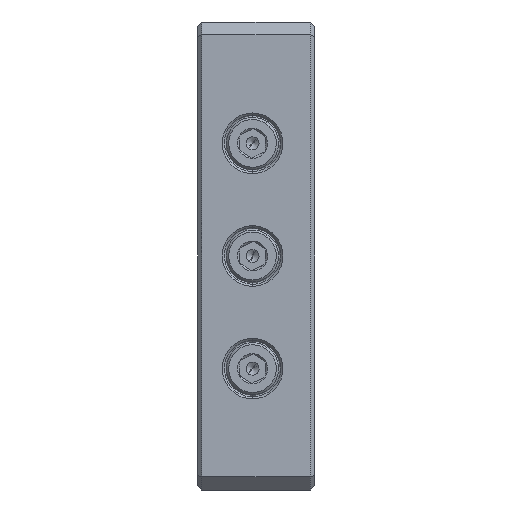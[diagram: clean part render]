
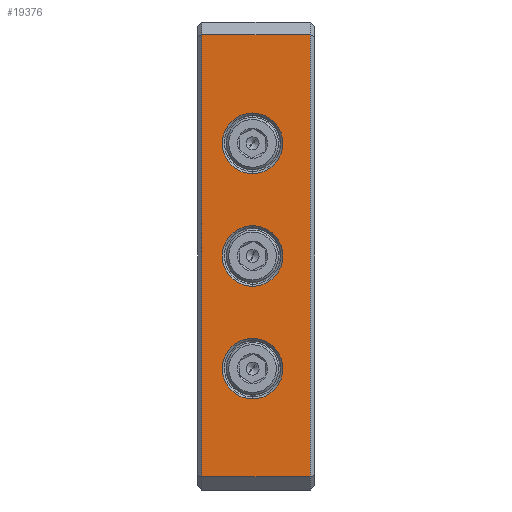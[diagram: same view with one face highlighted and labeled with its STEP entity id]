
A CAD part, left-side view. The second image highlights one B-rep face of the part: STEP entity #19376.
In plain terms, the highlighted planar face has unit normal (-1, 0, 0).
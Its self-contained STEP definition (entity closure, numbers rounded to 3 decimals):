
#11215=DIRECTION('',(0.,0.,1.));
#11216=VECTOR('',#11215,102.);
#11217=CARTESIAN_POINT('',(-111.,26.,-51.));
#11218=LINE('',#11217,#11216);
#11333=DIRECTION('',(0.,0.,-1.));
#11334=VECTOR('',#11333,102.);
#11335=CARTESIAN_POINT('',(-111.,1.,51.));
#11336=LINE('',#11335,#11334);
#11345=DIRECTION('',(0.,-1.,0.));
#11346=VECTOR('',#11345,25.);
#11347=CARTESIAN_POINT('',(-111.,26.,51.));
#11348=LINE('',#11347,#11346);
#11353=CARTESIAN_POINT('',(-111.,14.3,26.));
#11354=DIRECTION('',(1.,0.,0.));
#11355=DIRECTION('',(0.,0.,1.));
#11356=AXIS2_PLACEMENT_3D('',#11353,#11354,#11355);
#11358=CARTESIAN_POINT('',(-111.,14.3,26.));
#11359=DIRECTION('',(1.,0.,0.));
#11360=DIRECTION('',(0.,0.,-1.));
#11361=AXIS2_PLACEMENT_3D('',#11358,#11359,#11360);
#11363=CARTESIAN_POINT('',(-111.,14.3,0.));
#11364=DIRECTION('',(1.,0.,0.));
#11365=DIRECTION('',(0.,0.,1.));
#11366=AXIS2_PLACEMENT_3D('',#11363,#11364,#11365);
#11368=CARTESIAN_POINT('',(-111.,14.3,0.));
#11369=DIRECTION('',(1.,0.,0.));
#11370=DIRECTION('',(0.,0.,-1.));
#11371=AXIS2_PLACEMENT_3D('',#11368,#11369,#11370);
#11373=CARTESIAN_POINT('',(-111.,14.3,-26.));
#11374=DIRECTION('',(1.,0.,0.));
#11375=DIRECTION('',(0.,0.,1.));
#11376=AXIS2_PLACEMENT_3D('',#11373,#11374,#11375);
#11378=CARTESIAN_POINT('',(-111.,14.3,-26.));
#11379=DIRECTION('',(1.,0.,0.));
#11380=DIRECTION('',(0.,0.,-1.));
#11381=AXIS2_PLACEMENT_3D('',#11378,#11379,#11380);
#11387=DIRECTION('',(0.,1.,0.));
#11388=VECTOR('',#11387,25.);
#11389=CARTESIAN_POINT('',(-111.,1.,-51.));
#11390=LINE('',#11389,#11388);
#16832=CARTESIAN_POINT('',(-111.,14.3,19.));
#16833=CARTESIAN_POINT('',(-111.,14.3,33.));
#16834=VERTEX_POINT('',#16832);
#16835=VERTEX_POINT('',#16833);
#17039=CARTESIAN_POINT('',(-111.,14.3,7.));
#17041=VERTEX_POINT('',#17039);
#17228=CARTESIAN_POINT('',(-111.,14.3,-7.));
#17229=VERTEX_POINT('',#17228);
#17366=CARTESIAN_POINT('',(-111.,26.,-51.));
#17367=CARTESIAN_POINT('',(-111.,26.,51.));
#17368=VERTEX_POINT('',#17366);
#17369=VERTEX_POINT('',#17367);
#17445=CARTESIAN_POINT('',(-111.,1.,-51.));
#17447=VERTEX_POINT('',#17445);
#17619=CARTESIAN_POINT('',(-111.,14.3,-33.));
#17620=CARTESIAN_POINT('',(-111.,14.3,-19.));
#17621=VERTEX_POINT('',#17619);
#17622=VERTEX_POINT('',#17620);
#17730=CARTESIAN_POINT('',(-111.,1.,51.));
#17732=VERTEX_POINT('',#17730);
#19346=CARTESIAN_POINT('',(-111.,27.,54.));
#19347=DIRECTION('',(1.,0.,0.));
#19348=DIRECTION('',(0.,0.,-1.));
#19349=AXIS2_PLACEMENT_3D('',#19346,#19347,#19348);
#19350=PLANE('',#19349);
#19352=ORIENTED_EDGE('',*,*,#19351,.T.);
#19353=ORIENTED_EDGE('',*,*,#19116,.T.);
#19354=ORIENTED_EDGE('',*,*,#19337,.T.);
#19355=ORIENTED_EDGE('',*,*,#19314,.T.);
#19356=EDGE_LOOP('',(#19352,#19353,#19354,#19355));
#19357=FACE_OUTER_BOUND('',#19356,.F.);
#19359=ORIENTED_EDGE('',*,*,#19358,.F.);
#19361=ORIENTED_EDGE('',*,*,#19360,.F.);
#19362=EDGE_LOOP('',(#19359,#19361));
#19363=FACE_BOUND('',#19362,.F.);
#19365=ORIENTED_EDGE('',*,*,#19364,.F.);
#19367=ORIENTED_EDGE('',*,*,#19366,.F.);
#19368=EDGE_LOOP('',(#19365,#19367));
#19369=FACE_BOUND('',#19368,.F.);
#19371=ORIENTED_EDGE('',*,*,#19370,.F.);
#19373=ORIENTED_EDGE('',*,*,#19372,.F.);
#19374=EDGE_LOOP('',(#19371,#19373));
#19375=FACE_BOUND('',#19374,.F.);
#19376=ADVANCED_FACE('',(#19357,#19363,#19369,#19375),#19350,.F.);
#11357=CIRCLE('',#11356,7.);
#11362=CIRCLE('',#11361,7.);
#11367=CIRCLE('',#11366,7.);
#11372=CIRCLE('',#11371,7.);
#11377=CIRCLE('',#11376,7.);
#11382=CIRCLE('',#11381,7.);
#19116=EDGE_CURVE('',#17368,#17369,#11218,.T.);
#19314=EDGE_CURVE('',#17732,#17447,#11336,.T.);
#19337=EDGE_CURVE('',#17369,#17732,#11348,.T.);
#19351=EDGE_CURVE('',#17447,#17368,#11390,.T.);
#19358=EDGE_CURVE('',#16835,#16834,#11357,.T.);
#19360=EDGE_CURVE('',#16834,#16835,#11362,.T.);
#19364=EDGE_CURVE('',#17041,#17229,#11367,.T.);
#19366=EDGE_CURVE('',#17229,#17041,#11372,.T.);
#19370=EDGE_CURVE('',#17622,#17621,#11377,.T.);
#19372=EDGE_CURVE('',#17621,#17622,#11382,.T.);
